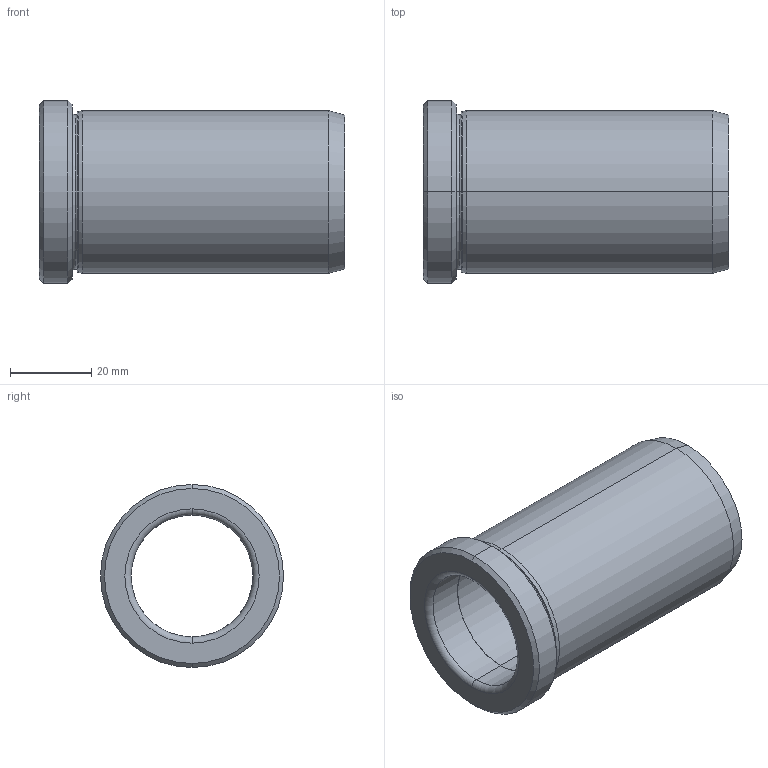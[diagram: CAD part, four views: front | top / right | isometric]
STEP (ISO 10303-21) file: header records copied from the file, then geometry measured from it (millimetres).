
FILE_DESCRIPTION (( 'STEP AP214' ), '1' );
FILE_NAME ('BRCVBG-30X75.STEP', '2020-07-21T12:35:20', ( '' ), ( '' ), 'SwSTEP 2.0', 'SolidWorks 2018', '' );
FILE_SCHEMA (( 'AUTOMOTIVE_DESIGN' ));
Length unit declared in the file: millimetre
Products named in the file (1): BRCVBG-30X75
Bounding box: 75 x 45 x 45 mm (x, y, z)
Volume: 43530.2 mm3; surface area: 18169.3 mm2
Topology: 1 solids, 1 shells, 32 faces, 64 edges, 36 vertices
Faces by surface type: torus 10, cylinder 10, cone 8, plane 4
Entity records: 872 total; most frequent: DIRECTION 176, CARTESIAN_POINT 133, ORIENTED_EDGE 128, AXIS2_PLACEMENT_3D 79, EDGE_CURVE 64, CIRCLE 46, EDGE_LOOP 36, VERTEX_POINT 36
